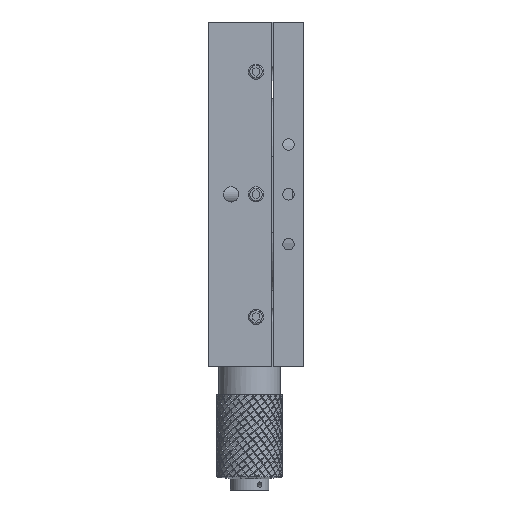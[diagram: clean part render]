
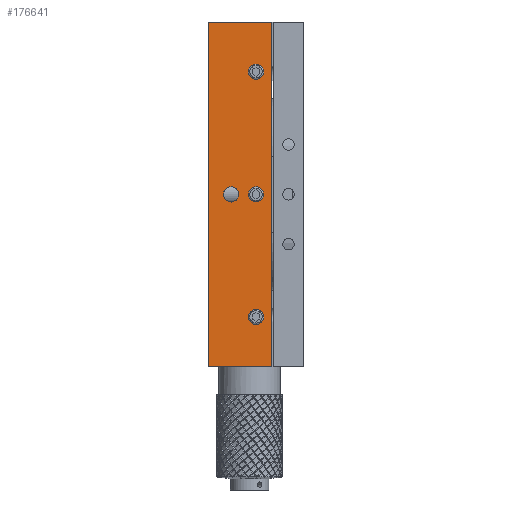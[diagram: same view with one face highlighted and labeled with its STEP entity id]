
A CAD part, left-side view. The second image highlights one B-rep face of the part: STEP entity #176641.
In plain terms, the highlighted planar face has unit normal (-1, 0, 0).
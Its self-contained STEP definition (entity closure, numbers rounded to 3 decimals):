
#17494 = CARTESIAN_POINT ( 'NONE',  ( -74.057, -5.53, -13. ) ) ;
#17497 = DIRECTION ( 'NONE',  ( -1., 0., 0. ) ) ;
#17500 = DIRECTION ( 'NONE',  ( 0., 0., 1. ) ) ;
#17507 = CARTESIAN_POINT ( 'NONE',  ( -74.057, 0.97, -45. ) ) ;
#17510 = DIRECTION ( 'NONE',  ( -1., 0., 0. ) ) ;
#17513 = DIRECTION ( 'NONE',  ( 0., 0., 1. ) ) ;
#17518 = CARTESIAN_POINT ( 'NONE',  ( -74.057, -9.53, 0. ) ) ;
#17521 = CARTESIAN_POINT ( 'NONE',  ( -74.057, -5.53, -45. ) ) ;
#17524 = DIRECTION ( 'NONE',  ( -1., 0., 0. ) ) ;
#17527 = DIRECTION ( 'NONE',  ( 0., 0., 1. ) ) ;
#17548 = CARTESIAN_POINT ( 'NONE',  ( -74.057, -5.53, -77. ) ) ;
#17551 = DIRECTION ( 'NONE',  ( -1., 0., 0. ) ) ;
#17554 = DIRECTION ( 'NONE',  ( 0., 0., 1. ) ) ;
#17568 = DIRECTION ( 'NONE',  ( 0., -1., 0. ) ) ;
#17570 = CARTESIAN_POINT ( 'NONE',  ( -74.057, -9.53, 0. ) ) ;
#17632 = DIRECTION ( 'NONE',  ( 0., 0., -1. ) ) ;
#17641 = CARTESIAN_POINT ( 'NONE',  ( -74.057, -9.53, -90. ) ) ;
#17643 = DIRECTION ( 'NONE',  ( 0., -1., 0. ) ) ;
#17649 = CARTESIAN_POINT ( 'NONE',  ( -74.057, 6.97, 0. ) ) ;
#17650 = DIRECTION ( 'NONE',  ( 0., 0., -1. ) ) ;
#28485 = VECTOR ( 'NONE', #17650, 1000. ) ;
#28488 = LINE ( 'NONE', #17649, #28485 ) ;
#28493 = VECTOR ( 'NONE', #17643, 1000. ) ;
#28496 = LINE ( 'NONE', #17641, #28493 ) ;
#28502 = VECTOR ( 'NONE', #17632, 1000. ) ;
#28505 = VECTOR ( 'NONE', #17568, 1000. ) ;
#28506 = LINE ( 'NONE', #17570, #28502 ) ;
#28508 = CIRCLE ( 'NONE', #29135, 2. ) ;
#28510 = CIRCLE ( 'NONE', #29132, 2. ) ;
#28511 = CIRCLE ( 'NONE', #29131, 2. ) ;
#28513 = CIRCLE ( 'NONE', #29130, 2. ) ;
#28523 = LINE ( 'NONE', #17518, #28505 ) ;
#29130 = AXIS2_PLACEMENT_3D ( 'NONE', #17494, #17497, #17500 ) ;
#29131 = AXIS2_PLACEMENT_3D ( 'NONE', #17507, #17510, #17513 ) ;
#29132 = AXIS2_PLACEMENT_3D ( 'NONE', #17521, #17524, #17527 ) ;
#29135 = AXIS2_PLACEMENT_3D ( 'NONE', #17548, #17551, #17554 ) ;
#59213 = FACE_BOUND ( 'NONE', #163855, .T. ) ;
#59232 = FACE_BOUND ( 'NONE', #163864, .T. ) ;
#59238 = FACE_BOUND ( 'NONE', #163857, .T. ) ;
#59241 = FACE_OUTER_BOUND ( 'NONE', #163861, .T. ) ;
#59245 = FACE_BOUND ( 'NONE', #163860, .T. ) ;
#82167 = ORIENTED_EDGE ( 'NONE', *, *, #157977, .F. ) ;
#82169 = ORIENTED_EDGE ( 'NONE', *, *, #158031, .T. ) ;
#82171 = ORIENTED_EDGE ( 'NONE', *, *, #157990, .F. ) ;
#82173 = ORIENTED_EDGE ( 'NONE', *, *, #157998, .F. ) ;
#82175 = ORIENTED_EDGE ( 'NONE', *, *, #158016, .T. ) ;
#82177 = ORIENTED_EDGE ( 'NONE', *, *, #157983, .F. ) ;
#82179 = ORIENTED_EDGE ( 'NONE', *, *, #157971, .F. ) ;
#82181 = ORIENTED_EDGE ( 'NONE', *, *, #157974, .F. ) ;
#107326 = DIRECTION ( 'NONE',  ( 1., 0., 0. ) ) ;
#107333 = CARTESIAN_POINT ( 'NONE',  ( -74.057, -9.53, 0. ) ) ;
#107337 = PLANE ( 'NONE',  #177275 ) ;
#107340 = DIRECTION ( 'NONE',  ( 0., 0., -1. ) ) ;
#122012 = VERTEX_POINT ( 'NONE', #131430 ) ;
#122225 = VERTEX_POINT ( 'NONE', #131622 ) ;
#122438 = VERTEX_POINT ( 'NONE', #131861 ) ;
#122924 = VERTEX_POINT ( 'NONE', #187612 ) ;
#131430 = CARTESIAN_POINT ( 'NONE',  ( -74.057, -9.53, -90. ) ) ;
#131622 = CARTESIAN_POINT ( 'NONE',  ( -74.057, 6.97, 0. ) ) ;
#131861 = CARTESIAN_POINT ( 'NONE',  ( -74.057, 6.97, -90. ) ) ;
#157971 = EDGE_CURVE ( 'NONE', #175378, #175378, #28513, .T. ) ;
#157974 = EDGE_CURVE ( 'NONE', #175381, #175381, #28511, .T. ) ;
#157977 = EDGE_CURVE ( 'NONE', #175383, #175383, #28510, .T. ) ;
#157983 = EDGE_CURVE ( 'NONE', #175389, #175389, #28508, .T. ) ;
#157990 = EDGE_CURVE ( 'NONE', #122225, #122924, #28523, .T. ) ;
#157998 = EDGE_CURVE ( 'NONE', #122924, #122012, #28506, .T. ) ;
#158016 = EDGE_CURVE ( 'NONE', #122438, #122012, #28496, .T. ) ;
#158031 = EDGE_CURVE ( 'NONE', #122225, #122438, #28488, .T. ) ;
#163855 = EDGE_LOOP ( 'NONE', ( #82167 ) ) ;
#163857 = EDGE_LOOP ( 'NONE', ( #82177 ) ) ;
#163860 = EDGE_LOOP ( 'NONE', ( #82179 ) ) ;
#163861 = EDGE_LOOP ( 'NONE', ( #82175, #82173, #82171, #82169 ) ) ;
#163864 = EDGE_LOOP ( 'NONE', ( #82181 ) ) ;
#174082 = CARTESIAN_POINT ( 'NONE',  ( -74.057, -5.53, -11. ) ) ;
#174084 = CARTESIAN_POINT ( 'NONE',  ( -74.057, 0.97, -43. ) ) ;
#174086 = CARTESIAN_POINT ( 'NONE',  ( -74.057, -5.53, -43. ) ) ;
#174090 = CARTESIAN_POINT ( 'NONE',  ( -74.057, -5.53, -75. ) ) ;
#175378 = VERTEX_POINT ( 'NONE', #174082 ) ;
#175381 = VERTEX_POINT ( 'NONE', #174084 ) ;
#175383 = VERTEX_POINT ( 'NONE', #174086 ) ;
#175389 = VERTEX_POINT ( 'NONE', #174090 ) ;
#176641 = ADVANCED_FACE ( 'NONE', ( #59232, #59245, #59238, #59241, #59213 ), #107337, .F. ) ;
#177275 = AXIS2_PLACEMENT_3D ( 'NONE', #107333, #107326, #107340 ) ;
#187612 = CARTESIAN_POINT ( 'NONE',  ( -74.057, -9.53, 0. ) ) ;
